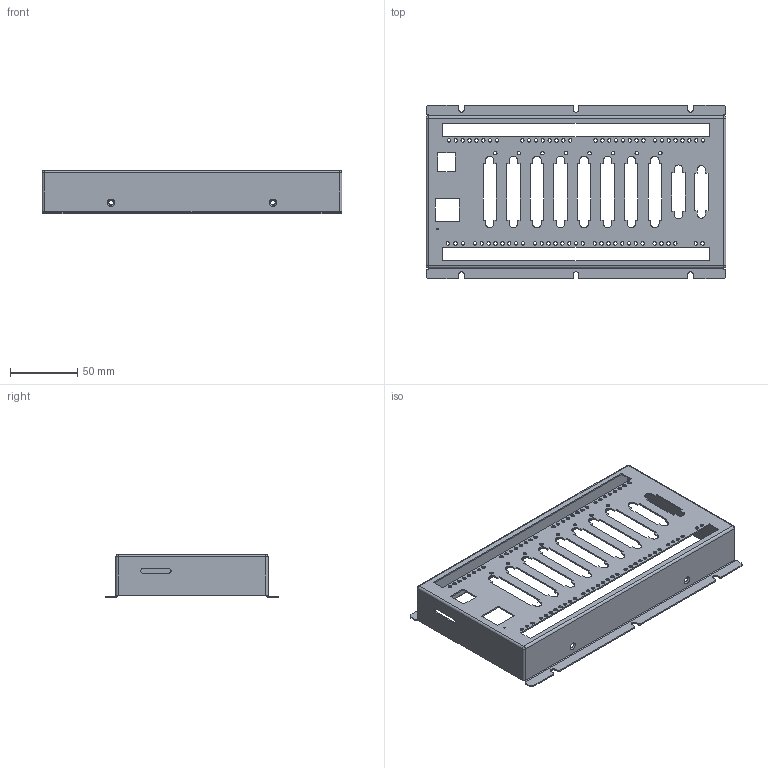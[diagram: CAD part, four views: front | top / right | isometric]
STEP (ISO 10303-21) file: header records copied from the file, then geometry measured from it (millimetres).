
FILE_DESCRIPTION((''),'2;1');
FILE_NAME('GCN800A_TOP','2025-07-09T04:31:33',('Administrator'),(''),'CREO PARAMETRIC BY PTC INC, 2020033','CREO PARAMETRIC BY PTC INC, 2020033','');
FILE_SCHEMA(('CONFIG_CONTROL_DESIGN'));
Length unit declared in the file: millimetre
Products named in the file (1): GCN800A_TOP
Bounding box: 222.4 x 129 x 32 mm (x, y, z)
Volume: 38707.9 mm3; surface area: 81014.8 mm2
Topology: 1 solids, 1 shells, 398 faces, 1172 edges, 776 vertices
Faces by surface type: cylinder 216, plane 166, bspline 8, cone 8
Entity records: 13902 total; most frequent: CARTESIAN_POINT 2466, DIRECTION 2408, ORIENTED_EDGE 2344, EDGE_CURVE 1172, AXIS2_PLACEMENT_3D 846, VERTEX_POINT 776, VECTOR 716, LINE 716
